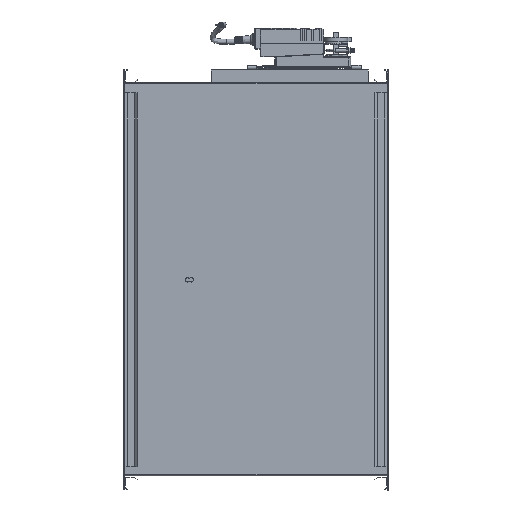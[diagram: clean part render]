
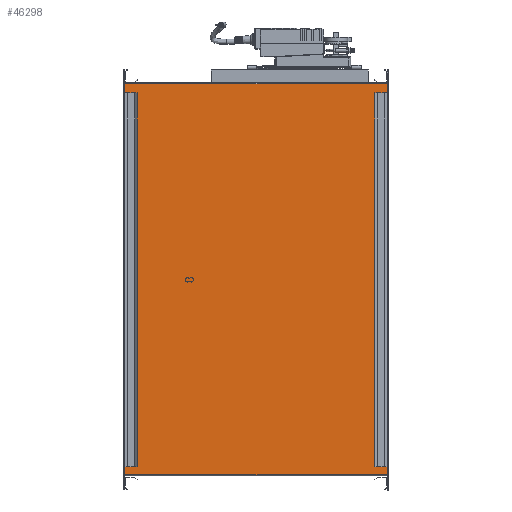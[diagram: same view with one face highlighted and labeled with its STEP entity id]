
A CAD part, front view. The second image highlights one B-rep face of the part: STEP entity #46298.
In plain terms, the highlighted planar face has unit normal (0, -1, 0).
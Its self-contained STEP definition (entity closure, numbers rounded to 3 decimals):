
#4312 = EDGE_CURVE ( 'NONE', #88982, #75047, #9263, .T. ) ;
#7016 = EDGE_CURVE ( 'NONE', #86844, #20333, #87586, .T. ) ;
#7199 = DIRECTION ( 'NONE',  ( 1., 0., 0. ) ) ;
#9263 = LINE ( 'NONE', #50701, #64049 ) ;
#12505 = CARTESIAN_POINT ( 'NONE',  ( -244.423, -35.848, 802. ) ) ;
#12856 = CARTESIAN_POINT ( 'NONE',  ( -244.423, -35.848, 802. ) ) ;
#14083 = CARTESIAN_POINT ( 'NONE',  ( -244.423, -35.848, 1398. ) ) ;
#15931 = VECTOR ( 'NONE', #66861, 1000. ) ;
#16655 = CARTESIAN_POINT ( 'NONE',  ( -244.423, -35.848, 1398. ) ) ;
#17567 = AXIS2_PLACEMENT_3D ( 'NONE', #12856, #69567, #62187 ) ;
#18003 = CARTESIAN_POINT ( 'NONE',  ( 155.577, -35.848, 802. ) ) ;
#19257 = EDGE_CURVE ( 'NONE', #75047, #20333, #61364, .T. ) ;
#20333 = VERTEX_POINT ( 'NONE', #80427 ) ;
#30134 = CARTESIAN_POINT ( 'NONE',  ( 155.577, -35.848, 1398. ) ) ;
#30868 = DIRECTION ( 'NONE',  ( 0., 0., -1. ) ) ;
#34014 = ORIENTED_EDGE ( 'NONE', *, *, #19257, .T. ) ;
#34086 = PLANE ( 'NONE',  #17567 ) ;
#46298 = ADVANCED_FACE ( 'NONE', ( #47863 ), #34086, .T. ) ;
#47863 = FACE_OUTER_BOUND ( 'NONE', #63193, .T. ) ;
#50701 = CARTESIAN_POINT ( 'NONE',  ( -244.423, -35.848, 802. ) ) ;
#51434 = CARTESIAN_POINT ( 'NONE',  ( -244.423, -35.848, 802. ) ) ;
#55710 = ORIENTED_EDGE ( 'NONE', *, *, #4312, .T. ) ;
#61364 = LINE ( 'NONE', #12505, #85346 ) ;
#62187 = DIRECTION ( 'NONE',  ( 0., 0., -1. ) ) ;
#62813 = ORIENTED_EDGE ( 'NONE', *, *, #83740, .F. ) ;
#63193 = EDGE_LOOP ( 'NONE', ( #67839, #62813, #55710, #34014 ) ) ;
#64049 = VECTOR ( 'NONE', #30868, 1000. ) ;
#66861 = DIRECTION ( 'NONE',  ( 0., 0., -1. ) ) ;
#67839 = ORIENTED_EDGE ( 'NONE', *, *, #7016, .F. ) ;
#69567 = DIRECTION ( 'NONE',  ( 0., -1., 0. ) ) ;
#75047 = VERTEX_POINT ( 'NONE', #51434 ) ;
#77244 = LINE ( 'NONE', #14083, #81903 ) ;
#80427 = CARTESIAN_POINT ( 'NONE',  ( 155.577, -35.848, 802. ) ) ;
#81903 = VECTOR ( 'NONE', #7199, 1000. ) ;
#82580 = DIRECTION ( 'NONE',  ( 1., 0., 0. ) ) ;
#83740 = EDGE_CURVE ( 'NONE', #88982, #86844, #77244, .T. ) ;
#85346 = VECTOR ( 'NONE', #82580, 1000. ) ;
#86844 = VERTEX_POINT ( 'NONE', #30134 ) ;
#87586 = LINE ( 'NONE', #18003, #15931 ) ;
#88982 = VERTEX_POINT ( 'NONE', #16655 ) ;
